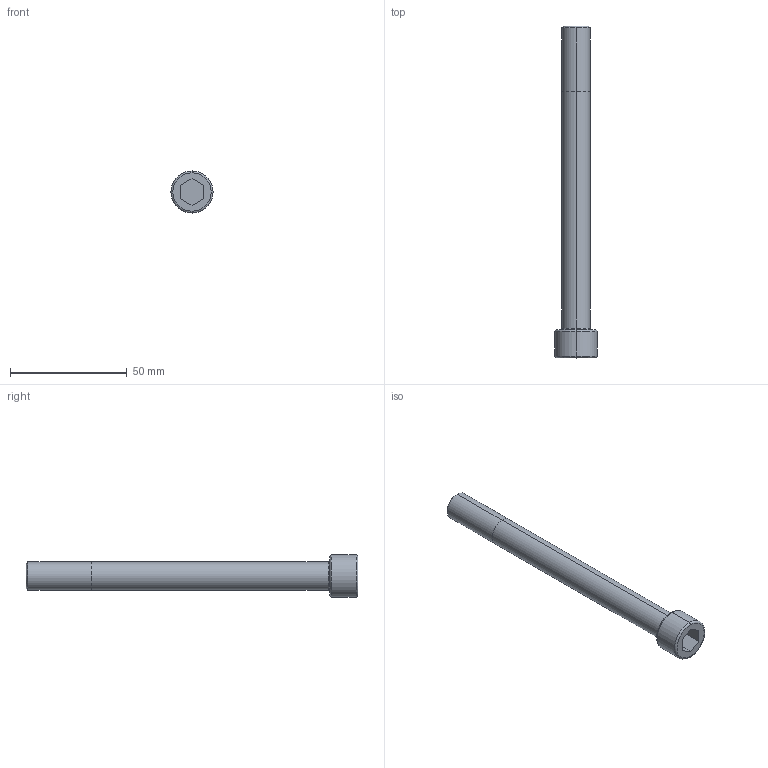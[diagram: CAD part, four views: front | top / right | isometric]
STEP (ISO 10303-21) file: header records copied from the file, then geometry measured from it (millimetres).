
FILE_DESCRIPTION (( 'STEP AP214' ), '1' );
FILE_NAME ('M_12X130.STEP', '2016-03-08T00:40:26', ( '' ), ( '' ), 'SwSTEP 2.0', 'SolidWorks 2014', '' );
FILE_SCHEMA (( 'AUTOMOTIVE_DESIGN' ));
Length unit declared in the file: millimetre
Products named in the file (1): M_12X130
Bounding box: 18 x 142 x 18 mm (x, y, z)
Volume: 16870.8 mm3; surface area: 6364.6 mm2
Topology: 1 solids, 1 shells, 25 faces, 52 edges, 32 vertices
Faces by surface type: plane 11, torus 6, cylinder 6, cone 2
Entity records: 746 total; most frequent: DIRECTION 130, CARTESIAN_POINT 110, ORIENTED_EDGE 104, AXIS2_PLACEMENT_3D 52, EDGE_CURVE 52, VERTEX_POINT 32, EDGE_LOOP 28, LINE 26
